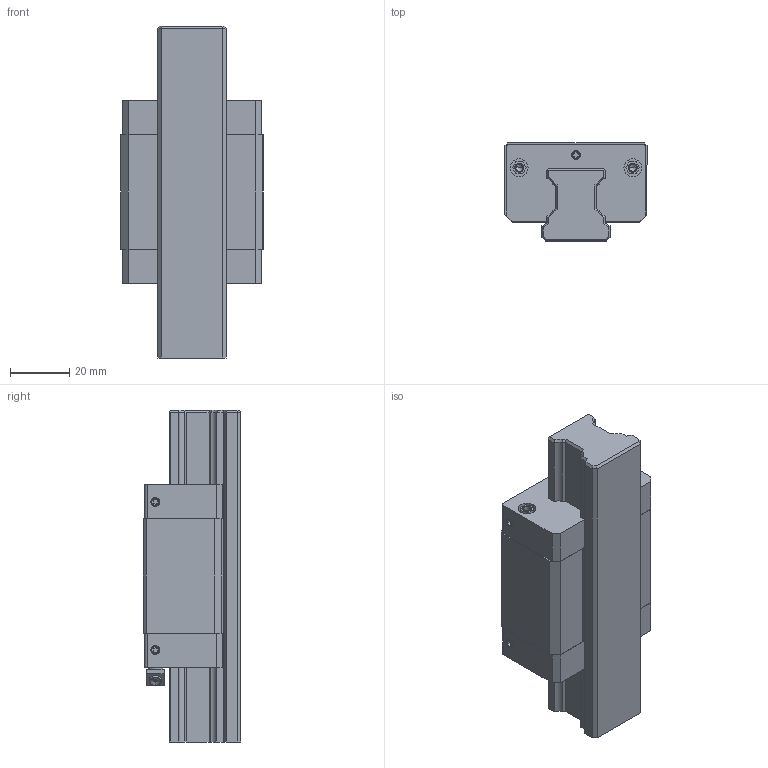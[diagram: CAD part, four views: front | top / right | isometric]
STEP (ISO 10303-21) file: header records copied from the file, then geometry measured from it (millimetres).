
FILE_DESCRIPTION((''),'2;1');
FILE_NAME('KWC_025_SKN_CS__ASM','2021-10-14T07:54:35',('ac91sw'),(''),'CREO PARAMETRIC BY PTC INC, 2020044','CREO PARAMETRIC BY PTC INC, 2020044','');
FILE_SCHEMA(('AUTOMOTIVE_DESIGN { 1 0 10303 214 1 1 1 1 }'));
Length unit declared in the file: millimetre
Products named in the file (7): KWC_025_SKN_CS__SKEL; R166420131; R169420002_Z; R343708901_Z; KWC_025_SKN_CS__PSF; R341700409_Z; KWC_025_SKN_CS__ASM
Assembly tree (11 placements, depth 2):
  KWC_025_SKN_CS__ASM
    KWC_025_SKN_CS__SKEL
    R166420131
    R169420002_Z  x2
    R343708901_Z  x5
    KWC_025_SKN_CS__PSF
    R341700409_Z
Bounding box: 48 x 33 x 112 mm (x, y, z)
Volume: 96909.6 mm3; surface area: 33373 mm2
Topology: 10 solids, 21 shells, 377 faces, 931 edges, 590 vertices
Faces by surface type: plane 211, cylinder 108, cone 58
Entity records: 13396 total; most frequent: CARTESIAN_POINT 1599, DIRECTION 1221, ORIENTED_EDGE 1122, PROPERTY_DEFINITION 818, REPRESENTATION 810, PROPERTY_DEFINITION_REPRESENTATION 810, DESCRIPTIVE_REPRESENTATION_ITEM 754, GENERAL_PROPERTY 749
